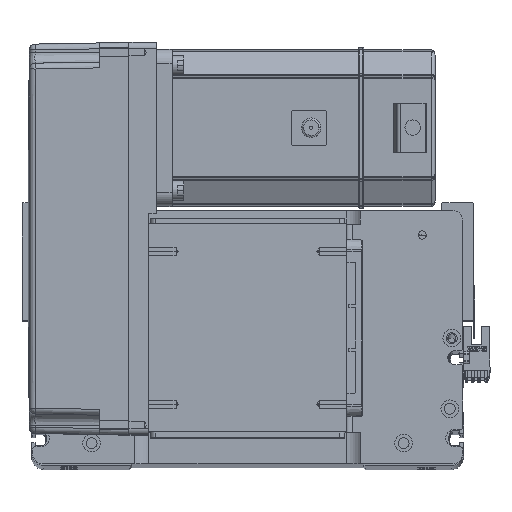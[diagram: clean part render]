
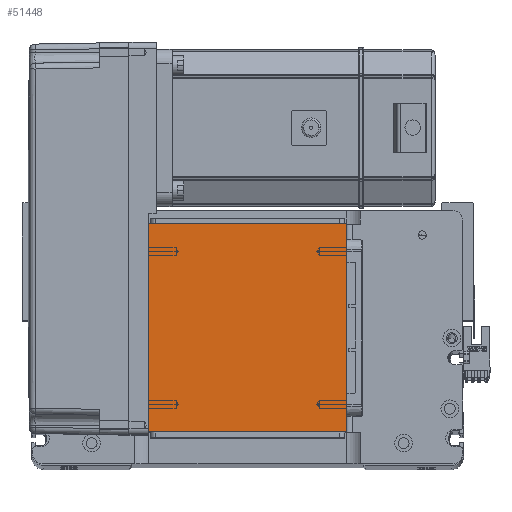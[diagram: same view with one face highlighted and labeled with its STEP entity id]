
A CAD part, top view. The second image highlights one B-rep face of the part: STEP entity #51448.
In plain terms, the highlighted planar face has unit normal (0, 0, 1).
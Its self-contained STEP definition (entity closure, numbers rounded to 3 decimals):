
#1198 = ORIENTED_EDGE ( 'NONE', *, *, #2228, .T. ) ;
#1545 = VECTOR ( 'NONE', #31848, 1000. ) ;
#2228 = EDGE_CURVE ( 'NONE', #20426, #45472, #28082, .T. ) ;
#3195 = LINE ( 'NONE', #28111, #21489 ) ;
#4115 = FACE_OUTER_BOUND ( 'NONE', #50171, .T. ) ;
#6033 = ORIENTED_EDGE ( 'NONE', *, *, #15226, .T. ) ;
#7050 = DIRECTION ( 'NONE',  ( 1., 0., 0. ) ) ;
#8190 = DIRECTION ( 'NONE',  ( -1., 0., 0. ) ) ;
#8592 = DIRECTION ( 'NONE',  ( 1., 0., 0. ) ) ;
#9111 = PLANE ( 'NONE',  #42856 ) ;
#9634 = CARTESIAN_POINT ( 'NONE',  ( -50.5, 122., 115. ) ) ;
#10576 = VERTEX_POINT ( 'NONE', #9634 ) ;
#10929 = CARTESIAN_POINT ( 'NONE',  ( -50.5, 16., 115. ) ) ;
#11224 = CARTESIAN_POINT ( 'NONE',  ( 50.5, 122., 115. ) ) ;
#12800 = CARTESIAN_POINT ( 'NONE',  ( 0., 0., 115. ) ) ;
#12885 = ORIENTED_EDGE ( 'NONE', *, *, #39421, .T. ) ;
#15226 = EDGE_CURVE ( 'NONE', #10576, #19710, #47054, .T. ) ;
#19647 = VECTOR ( 'NONE', #7050, 1000. ) ;
#19710 = VERTEX_POINT ( 'NONE', #26763 ) ;
#20426 = VERTEX_POINT ( 'NONE', #29592 ) ;
#21489 = VECTOR ( 'NONE', #8190, 1000. ) ;
#25469 = CARTESIAN_POINT ( 'NONE',  ( -50.5, 122., 115. ) ) ;
#25694 = VECTOR ( 'NONE', #49339, 1000. ) ;
#26763 = CARTESIAN_POINT ( 'NONE',  ( -50.5, 16., 115. ) ) ;
#27817 = CARTESIAN_POINT ( 'NONE',  ( 50.5, 122., 115. ) ) ;
#28082 = LINE ( 'NONE', #27817, #1545 ) ;
#28111 = CARTESIAN_POINT ( 'NONE',  ( -50.5, 122., 115. ) ) ;
#29592 = CARTESIAN_POINT ( 'NONE',  ( 50.5, 16., 115. ) ) ;
#31848 = DIRECTION ( 'NONE',  ( 0., 1., 0. ) ) ;
#37065 = ORIENTED_EDGE ( 'NONE', *, *, #43176, .T. ) ;
#39421 = EDGE_CURVE ( 'NONE', #45472, #10576, #3195, .T. ) ;
#41135 = DIRECTION ( 'NONE',  ( 0., 0., 1. ) ) ;
#42856 = AXIS2_PLACEMENT_3D ( 'NONE', #12800, #41135, #8592 ) ;
#43176 = EDGE_CURVE ( 'NONE', #19710, #20426, #46660, .T. ) ;
#45472 = VERTEX_POINT ( 'NONE', #11224 ) ;
#46660 = LINE ( 'NONE', #10929, #19647 ) ;
#47054 = LINE ( 'NONE', #25469, #25694 ) ;
#49339 = DIRECTION ( 'NONE',  ( 0., -1., 0. ) ) ;
#50171 = EDGE_LOOP ( 'NONE', ( #6033, #37065, #1198, #12885 ) ) ;
#51448 = ADVANCED_FACE ( 'NONE', ( #4115 ), #9111, .T. ) ;
